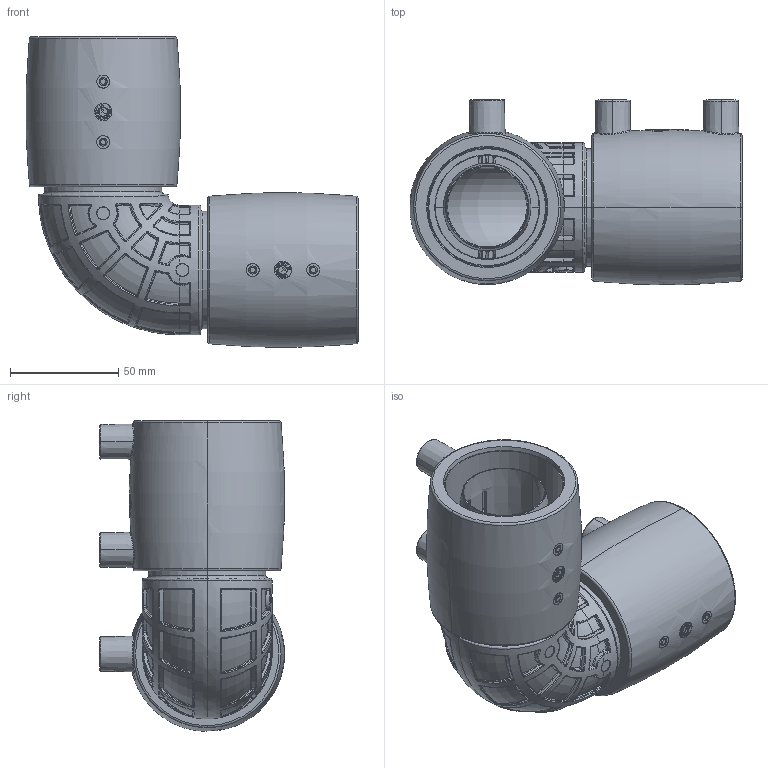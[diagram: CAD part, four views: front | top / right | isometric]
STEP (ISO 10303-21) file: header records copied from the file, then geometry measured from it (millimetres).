
FILE_DESCRIPTION (( 'STEP AP214' ), '1' );
FILE_NAME ('KP_23-54EC.STEP', '2022-04-28T06:51:49', ( '' ), ( '' ), 'SwSTEP 2.0', 'SolidWorks 2022', '' );
FILE_SCHEMA (( 'AUTOMOTIVE_DESIGN' ));
Length unit declared in the file: millimetre
Products named in the file (4): KP CC-54 PE100; KP_23-54EC; KP_2-54; KP_3-54EC
Assembly tree (5 placements, depth 2):
  KP_23-54EC
    KP_3-54EC
    KP_2-54  x2
    KP CC-54 PE100  x2
Bounding box: 153.48 x 85.53 x 143.48 mm (x, y, z)
Volume: 408422.9 mm3; surface area: 202281.5 mm2
Topology: 5 solids, 7 shells, 3093 faces, 7663 edges, 4734 vertices
Faces by surface type: bspline 1093, plane 784, cylinder 634, torus 358, cone 214, sphere 10
Entity records: 94999 total; most frequent: CARTESIAN_POINT 43746, ORIENTED_EDGE 9610, DIRECTION 6705, EDGE_CURVE 4805, VERTEX_POINT 2924, AXIS2_PLACEMENT_3D 2730, EDGE_LOOP 2085, ADVANCED_FACE 1975
